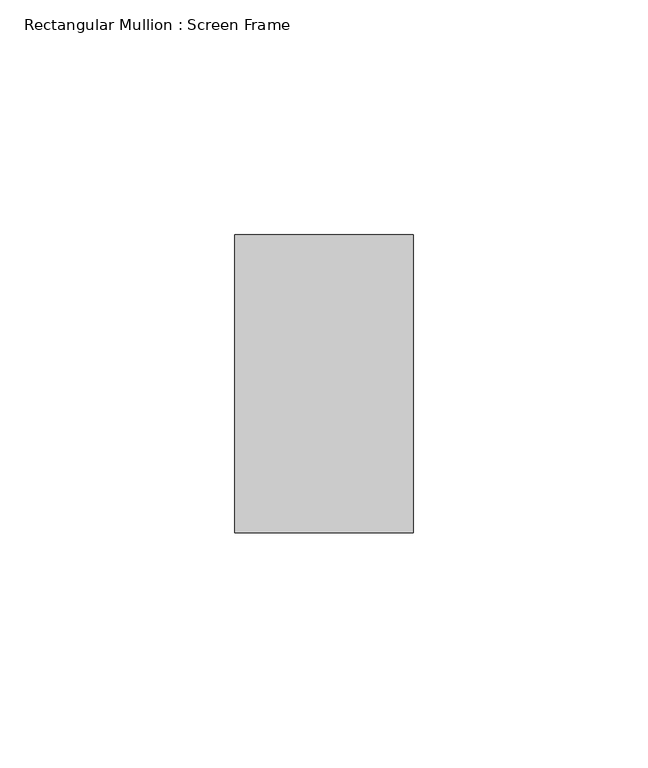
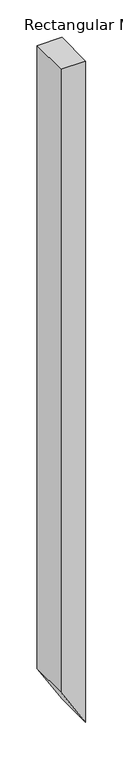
"""IFC4 building model written with IfcOpenShell, lengths in millimetres: member geometry, Rectangular Mullion : Screen Frame."""

from ifc_helpers import new_model, si_unit, frame, origin, place, context, project, spatial, polyline, outline, extrude, source, transform, mapped, element, save


def rectangular_mullion_screen_frame_deee551e(model_context):
    return source(origin(), model_context, "Body", "SweptSolid", [
        extrude(outline(polyline([(0.0, 0.0), (0.0, -38.1), (-1016.3026763, -38.1), (-1078.4093023, 0.0), (0.0, 0.0)])), frame((0.0, -31.75, 0.0), z_axis=(0.0, 1.0, 0.0), x_axis=(0.0, 0.0, 1.0)), (0.0, 0.0, 1.0), 63.5),
    ])


if __name__ == "__main__":
    model = new_model("IFC4")
    model_context = context("Model", 3, world=origin())
    ifc_project = project(units=[si_unit("LENGTHUNIT", "METRE", prefix="MILLI")], contexts=[model_context])
    site = spatial("IfcSite", under=ifc_project)
    building = spatial("IfcBuilding", under=site)
    placement = place(None, origin())
    rectangular_mullion_screen_frame_shape = rectangular_mullion_screen_frame_deee551e(model_context)
    element("IfcMember", 1, ObjectType="Rectangular Mullion : Screen Frame", at=placement, inside=building, context=model_context, shape_type="MappedRepresentation", body=[
        mapped(rectangular_mullion_screen_frame_shape, transform((0.0, 0.0, 0.0), x_axis=(1.0, 0.0, 0.0), y_axis=(0.0, 1.0, 0.0), z_axis=(0.0, 0.0, 1.0))),
    ])
    save(model, "model.ifc")
